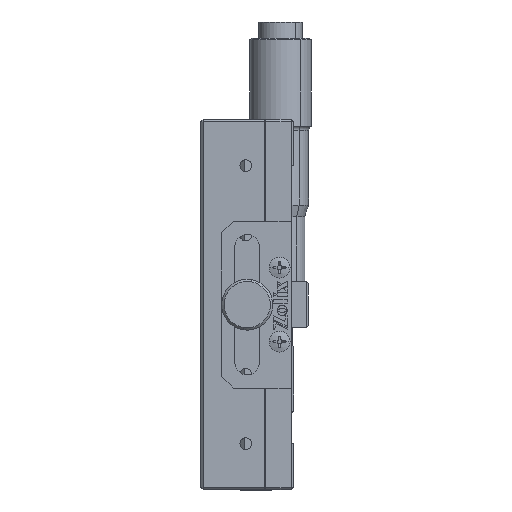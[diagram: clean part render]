
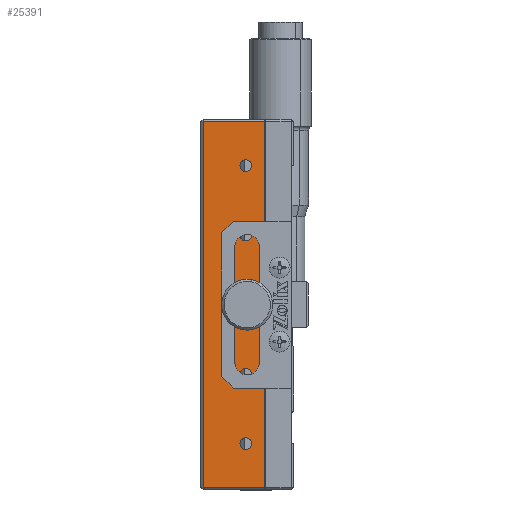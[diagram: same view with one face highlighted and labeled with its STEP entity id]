
A CAD part, left-side view. The second image highlights one B-rep face of the part: STEP entity #25391.
In plain terms, the highlighted planar face has unit normal (-1, 0, 0).
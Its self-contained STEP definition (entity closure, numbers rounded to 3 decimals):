
#148 = AXIS2_PLACEMENT_3D ( 'NONE', #6930, #24146, #7023 ) ;
#178 = FACE_BOUND ( 'NONE', #27028, .T. ) ;
#581 = VERTEX_POINT ( 'NONE', #18933 ) ;
#859 = FACE_BOUND ( 'NONE', #17693, .T. ) ;
#2666 = LINE ( 'NONE', #27048, #11690 ) ;
#2827 = CARTESIAN_POINT ( 'NONE',  ( -37.399, -2.578, 61.25 ) ) ;
#3058 = ORIENTED_EDGE ( 'NONE', *, *, #20156, .F. ) ;
#3351 = ORIENTED_EDGE ( 'NONE', *, *, #20858, .F. ) ;
#3608 = CARTESIAN_POINT ( 'NONE',  ( -37.399, -2.878, 92.5 ) ) ;
#3765 = EDGE_CURVE ( 'NONE', #16812, #12855, #2666, .T. ) ;
#3826 = ORIENTED_EDGE ( 'NONE', *, *, #21649, .F. ) ;
#3958 = ORIENTED_EDGE ( 'NONE', *, *, #8901, .F. ) ;
#4676 = CARTESIAN_POINT ( 'NONE',  ( -37.399, -2.878, 92.5 ) ) ;
#4926 = VERTEX_POINT ( 'NONE', #19889 ) ;
#5305 = VERTEX_POINT ( 'NONE', #2827 ) ;
#5412 = EDGE_LOOP ( 'NONE', ( #8056, #7167 ) ) ;
#5706 = EDGE_CURVE ( 'NONE', #22349, #16193, #18603, .T. ) ;
#5796 = AXIS2_PLACEMENT_3D ( 'NONE', #20232, #24564, #22113 ) ;
#5899 = FACE_BOUND ( 'NONE', #5412, .T. ) ;
#6263 = CARTESIAN_POINT ( 'NONE',  ( -37.399, -6.578, 52.5 ) ) ;
#6930 = CARTESIAN_POINT ( 'NONE',  ( -37.399, -2.578, 107.5 ) ) ;
#6945 = DIRECTION ( 'NONE',  ( 0., 0., 1. ) ) ;
#7023 = DIRECTION ( 'NONE',  ( 0., 0., 1. ) ) ;
#7153 = VECTOR ( 'NONE', #17452, 1000. ) ;
#7167 = ORIENTED_EDGE ( 'NONE', *, *, #12836, .F. ) ;
#7262 = EDGE_CURVE ( 'NONE', #4926, #581, #11774, .T. ) ;
#7356 = CARTESIAN_POINT ( 'NONE',  ( -37.399, -2.578, 108.75 ) ) ;
#7547 = CARTESIAN_POINT ( 'NONE',  ( -37.399, -2.578, 107.5 ) ) ;
#8029 = DIRECTION ( 'NONE',  ( -1., 0., 0. ) ) ;
#8056 = ORIENTED_EDGE ( 'NONE', *, *, #14733, .F. ) ;
#8901 = EDGE_CURVE ( 'NONE', #26080, #5305, #9996, .T. ) ;
#9243 = DIRECTION ( 'NONE',  ( -1., 0., 0. ) ) ;
#9323 = AXIS2_PLACEMENT_3D ( 'NONE', #3608, #12178, #27186 ) ;
#9324 = ORIENTED_EDGE ( 'NONE', *, *, #13237, .T. ) ;
#9944 = EDGE_CURVE ( 'NONE', #16193, #22349, #23346, .T. ) ;
#9996 = CIRCLE ( 'NONE', #5796, 1.25 ) ;
#10092 = DIRECTION ( 'NONE',  ( 0., 0., 1. ) ) ;
#10330 = ORIENTED_EDGE ( 'NONE', *, *, #3765, .T. ) ;
#11106 = EDGE_LOOP ( 'NONE', ( #3351, #3058 ) ) ;
#11229 = CARTESIAN_POINT ( 'NONE',  ( -37.399, 6.622, 52.5 ) ) ;
#11690 = VECTOR ( 'NONE', #18586, 1000. ) ;
#11774 = CIRCLE ( 'NONE', #9323, 2.1 ) ;
#11843 = DIRECTION ( 'NONE',  ( -1., 0., 0. ) ) ;
#12178 = DIRECTION ( 'NONE',  ( -1., 0., 0. ) ) ;
#12571 = FACE_BOUND ( 'NONE', #11106, .T. ) ;
#12836 = EDGE_CURVE ( 'NONE', #18473, #18089, #19215, .T. ) ;
#12855 = VERTEX_POINT ( 'NONE', #14080 ) ;
#12943 = DIRECTION ( 'NONE',  ( 0., 0., 1. ) ) ;
#13199 = ORIENTED_EDGE ( 'NONE', *, *, #22026, .F. ) ;
#13237 = EDGE_CURVE ( 'NONE', #20132, #16812, #17171, .T. ) ;
#14080 = CARTESIAN_POINT ( 'NONE',  ( -37.399, 6.622, 132. ) ) ;
#14234 = CIRCLE ( 'NONE', #25786, 1.25 ) ;
#14733 = EDGE_CURVE ( 'NONE', #18089, #18473, #18101, .T. ) ;
#15293 = AXIS2_PLACEMENT_3D ( 'NONE', #23552, #23281, #12943 ) ;
#15432 = DIRECTION ( 'NONE',  ( 0., 0., -1. ) ) ;
#15655 = DIRECTION ( 'NONE',  ( -1., 0., 0. ) ) ;
#15952 = VERTEX_POINT ( 'NONE', #27115 ) ;
#16040 = DIRECTION ( 'NONE',  ( -1., 0., 0. ) ) ;
#16136 = CARTESIAN_POINT ( 'NONE',  ( -37.399, -2.578, 122.5 ) ) ;
#16180 = AXIS2_PLACEMENT_3D ( 'NONE', #7547, #11843, #26860 ) ;
#16193 = VERTEX_POINT ( 'NONE', #21365 ) ;
#16276 = CARTESIAN_POINT ( 'NONE',  ( -37.399, 6.622, 53. ) ) ;
#16389 = CARTESIAN_POINT ( 'NONE',  ( -37.399, -6.578, 53. ) ) ;
#16812 = VERTEX_POINT ( 'NONE', #21071 ) ;
#17171 = LINE ( 'NONE', #19787, #7153 ) ;
#17273 = FACE_BOUND ( 'NONE', #23845, .T. ) ;
#17452 = DIRECTION ( 'NONE',  ( 0., 0., 1. ) ) ;
#17693 = EDGE_LOOP ( 'NONE', ( #21357, #20584 ) ) ;
#17820 = LINE ( 'NONE', #27090, #20507 ) ;
#17984 = ORIENTED_EDGE ( 'NONE', *, *, #23957, .T. ) ;
#18089 = VERTEX_POINT ( 'NONE', #25856 ) ;
#18101 = CIRCLE ( 'NONE', #27060, 1.25 ) ;
#18306 = DIRECTION ( 'NONE',  ( 0., 0., 1. ) ) ;
#18375 = AXIS2_PLACEMENT_3D ( 'NONE', #16136, #16040, #18306 ) ;
#18473 = VERTEX_POINT ( 'NONE', #18696 ) ;
#18586 = DIRECTION ( 'NONE',  ( 0., 1., 0. ) ) ;
#18603 = CIRCLE ( 'NONE', #148, 1.25 ) ;
#18688 = CARTESIAN_POINT ( 'NONE',  ( -37.399, -2.578, 62.5 ) ) ;
#18696 = CARTESIAN_POINT ( 'NONE',  ( -37.399, -2.578, 121.25 ) ) ;
#18933 = CARTESIAN_POINT ( 'NONE',  ( -37.399, -2.878, 90.4 ) ) ;
#19215 = CIRCLE ( 'NONE', #18375, 1.25 ) ;
#19439 = AXIS2_PLACEMENT_3D ( 'NONE', #21806, #9243, #6945 ) ;
#19787 = CARTESIAN_POINT ( 'NONE',  ( -37.399, -6.578, 52.5 ) ) ;
#19889 = CARTESIAN_POINT ( 'NONE',  ( -37.399, -2.878, 94.6 ) ) ;
#20132 = VERTEX_POINT ( 'NONE', #16389 ) ;
#20156 = EDGE_CURVE ( 'NONE', #15952, #27152, #26457, .T. ) ;
#20230 = DIRECTION ( 'NONE',  ( 0., -1., 0. ) ) ;
#20232 = CARTESIAN_POINT ( 'NONE',  ( -37.399, -2.578, 62.5 ) ) ;
#20507 = VECTOR ( 'NONE', #20230, 1000. ) ;
#20584 = ORIENTED_EDGE ( 'NONE', *, *, #9944, .F. ) ;
#20858 = EDGE_CURVE ( 'NONE', #27152, #15952, #21724, .T. ) ;
#21071 = CARTESIAN_POINT ( 'NONE',  ( -37.399, -6.578, 132. ) ) ;
#21205 = LINE ( 'NONE', #11229, #23911 ) ;
#21357 = ORIENTED_EDGE ( 'NONE', *, *, #5706, .F. ) ;
#21365 = CARTESIAN_POINT ( 'NONE',  ( -37.399, -2.578, 106.25 ) ) ;
#21649 = EDGE_CURVE ( 'NONE', #581, #4926, #24690, .T. ) ;
#21724 = CIRCLE ( 'NONE', #19439, 1.25 ) ;
#21806 = CARTESIAN_POINT ( 'NONE',  ( -37.399, -2.578, 77.5 ) ) ;
#22026 = EDGE_CURVE ( 'NONE', #5305, #26080, #14234, .T. ) ;
#22095 = EDGE_LOOP ( 'NONE', ( #22134, #17984, #9324, #10330 ) ) ;
#22113 = DIRECTION ( 'NONE',  ( 0., 0., 1. ) ) ;
#22134 = ORIENTED_EDGE ( 'NONE', *, *, #27421, .T. ) ;
#22313 = FACE_OUTER_BOUND ( 'NONE', #22095, .T. ) ;
#22349 = VERTEX_POINT ( 'NONE', #7356 ) ;
#23021 = DIRECTION ( 'NONE',  ( 0., 0., 1. ) ) ;
#23225 = PLANE ( 'NONE',  #23867 ) ;
#23281 = DIRECTION ( 'NONE',  ( -1., 0., 0. ) ) ;
#23315 = DIRECTION ( 'NONE',  ( 0., 0., 1. ) ) ;
#23346 = CIRCLE ( 'NONE', #16180, 1.25 ) ;
#23552 = CARTESIAN_POINT ( 'NONE',  ( -37.399, -2.578, 77.5 ) ) ;
#23710 = CARTESIAN_POINT ( 'NONE',  ( -37.399, -2.578, 63.75 ) ) ;
#23845 = EDGE_LOOP ( 'NONE', ( #3958, #13199 ) ) ;
#23867 = AXIS2_PLACEMENT_3D ( 'NONE', #6263, #27350, #23315 ) ;
#23911 = VECTOR ( 'NONE', #15432, 1000. ) ;
#23957 = EDGE_CURVE ( 'NONE', #25775, #20132, #17820, .T. ) ;
#24146 = DIRECTION ( 'NONE',  ( -1., 0., 0. ) ) ;
#24564 = DIRECTION ( 'NONE',  ( -1., 0., 0. ) ) ;
#24690 = CIRCLE ( 'NONE', #25048, 2.1 ) ;
#24831 = DIRECTION ( 'NONE',  ( -1., 0., 0. ) ) ;
#25048 = AXIS2_PLACEMENT_3D ( 'NONE', #4676, #15655, #27498 ) ;
#25154 = ORIENTED_EDGE ( 'NONE', *, *, #7262, .F. ) ;
#25391 = ADVANCED_FACE ( 'NONE', ( #12571, #17273, #5899, #859, #178, #22313 ), #23225, .T. ) ;
#25775 = VERTEX_POINT ( 'NONE', #16276 ) ;
#25786 = AXIS2_PLACEMENT_3D ( 'NONE', #18688, #8029, #23021 ) ;
#25856 = CARTESIAN_POINT ( 'NONE',  ( -37.399, -2.578, 123.75 ) ) ;
#26080 = VERTEX_POINT ( 'NONE', #23710 ) ;
#26457 = CIRCLE ( 'NONE', #15293, 1.25 ) ;
#26860 = DIRECTION ( 'NONE',  ( 0., 0., 1. ) ) ;
#27028 = EDGE_LOOP ( 'NONE', ( #25154, #3826 ) ) ;
#27048 = CARTESIAN_POINT ( 'NONE',  ( -37.399, -6.578, 132. ) ) ;
#27060 = AXIS2_PLACEMENT_3D ( 'NONE', #27273, #24831, #10092 ) ;
#27090 = CARTESIAN_POINT ( 'NONE',  ( -37.399, -6.578, 53. ) ) ;
#27115 = CARTESIAN_POINT ( 'NONE',  ( -37.399, -2.578, 76.25 ) ) ;
#27152 = VERTEX_POINT ( 'NONE', #27394 ) ;
#27186 = DIRECTION ( 'NONE',  ( 0., 0., 1. ) ) ;
#27273 = CARTESIAN_POINT ( 'NONE',  ( -37.399, -2.578, 122.5 ) ) ;
#27350 = DIRECTION ( 'NONE',  ( -1., 0., 0. ) ) ;
#27394 = CARTESIAN_POINT ( 'NONE',  ( -37.399, -2.578, 78.75 ) ) ;
#27421 = EDGE_CURVE ( 'NONE', #12855, #25775, #21205, .T. ) ;
#27498 = DIRECTION ( 'NONE',  ( 0., 0., 1. ) ) ;
